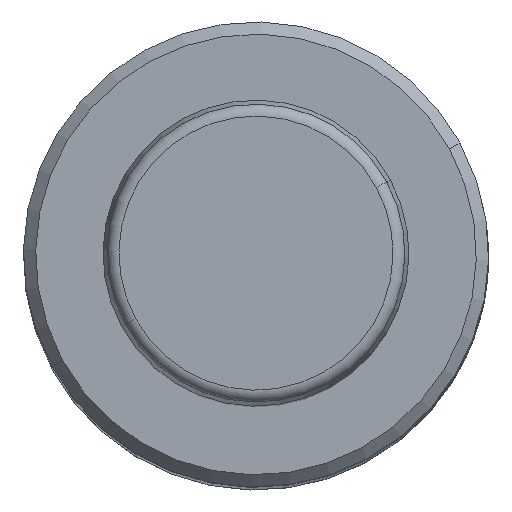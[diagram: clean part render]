
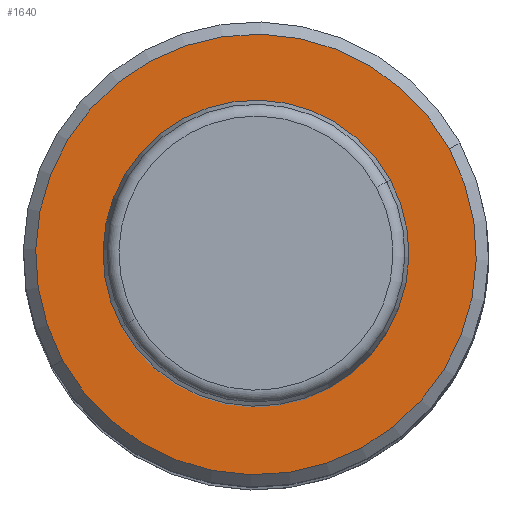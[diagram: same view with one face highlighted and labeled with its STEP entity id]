
A CAD part, top view. The second image highlights one B-rep face of the part: STEP entity #1640.
In plain terms, the highlighted planar face has unit normal (0, 0, 1).
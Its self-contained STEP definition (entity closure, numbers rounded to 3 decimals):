
#1412=CARTESIAN_POINT('Axis2P3D Location',(0.,0.,121.)) ;
#1416=CARTESIAN_POINT('Vertex',(15.796,8.63,121.)) ;
#1418=CARTESIAN_POINT('Vertex',(-15.796,-8.63,121.)) ;
#1447=CARTESIAN_POINT('Axis2P3D Location',(0.,0.,121.)) ;
#1631=CARTESIAN_POINT('Axis2P3D Location',(18.,0.,121.)) ;
#1413=DIRECTION('Axis2P3D Direction',(0.,0.,-1.)) ;
#1448=DIRECTION('Axis2P3D Direction',(0.,0.,-1.)) ;
#1632=DIRECTION('Axis2P3D Direction',(0.,0.,1.)) ;
#1633=DIRECTION('Axis2P3D XDirection',(1.,0.,0.)) ;
#1414=AXIS2_PLACEMENT_3D('Circle Axis2P3D',#1412,#1413,$) ;
#1449=AXIS2_PLACEMENT_3D('Circle Axis2P3D',#1447,#1448,$) ;
#1634=AXIS2_PLACEMENT_3D('Plane Axis2P3D',#1631,#1632,#1633) ;
#1637=ORIENTED_EDGE('',*,*,#1420,.T.) ;
#1638=ORIENTED_EDGE('',*,*,#1451,.T.) ;
#1640=ADVANCED_FACE('',(#1639),#1635,.T.) ;
#1415=CIRCLE('generated circle',#1414,18.) ;
#1450=CIRCLE('generated circle',#1449,18.) ;
#1420=EDGE_CURVE('',#1417,#1419,#1415,.F.) ;
#1451=EDGE_CURVE('',#1419,#1417,#1450,.F.) ;
#1636=EDGE_LOOP('',(#1637,#1638)) ;
#1639=FACE_OUTER_BOUND('',#1636,.T.) ;
#1635=PLANE('Plane',#1634) ;
#1417=VERTEX_POINT('',#1416) ;
#1419=VERTEX_POINT('',#1418) ;
